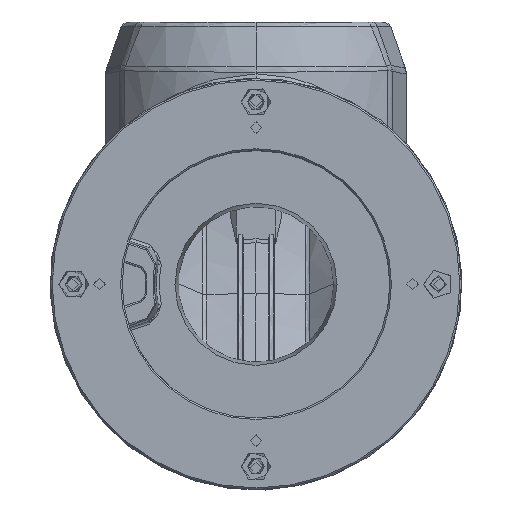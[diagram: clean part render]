
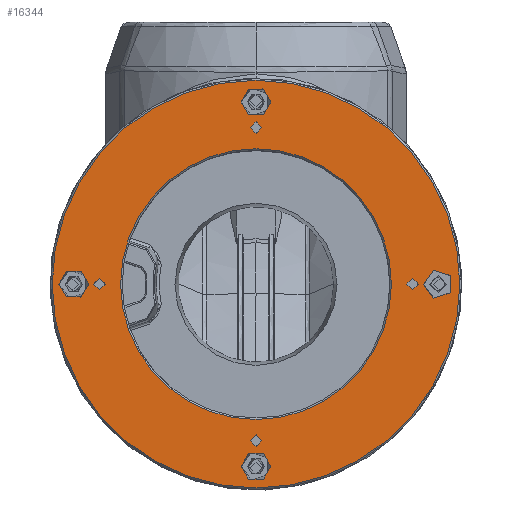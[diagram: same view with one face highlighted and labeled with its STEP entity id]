
A CAD part, top view. The second image highlights one B-rep face of the part: STEP entity #16344.
In plain terms, the highlighted planar face has unit normal (0, 0, 1).
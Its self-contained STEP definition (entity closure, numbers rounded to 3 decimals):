
#14640=CIRCLE('',#36894,4.758);
#14641=CIRCLE('',#36895,1.882);
#14642=CIRCLE('',#36896,43.4);
#14643=CIRCLE('',#36897,65.35);
#14644=CIRCLE('',#36898,1.882);
#14645=CIRCLE('',#36899,4.758);
#14646=CIRCLE('',#36900,4.758);
#14647=CIRCLE('',#36901,1.882);
#14648=CIRCLE('',#36902,4.758);
#14649=CIRCLE('',#36903,1.882);
#16344=ADVANCED_FACE('',(#16951,#16952,#16953,#16954,#16955,#16956,#16957,
#16958,#16959,#16960),#16677,.F.);
#16677=PLANE('',#36904);
#16951=FACE_BOUND('',#18692,.T.);
#16952=FACE_BOUND('',#18693,.T.);
#16953=FACE_BOUND('',#18694,.T.);
#16954=FACE_BOUND('',#18695,.T.);
#16955=FACE_BOUND('',#18696,.T.);
#16956=FACE_BOUND('',#18697,.T.);
#16957=FACE_BOUND('',#18698,.T.);
#16958=FACE_BOUND('',#18699,.T.);
#16959=FACE_BOUND('',#18700,.T.);
#16960=FACE_BOUND('',#18701,.T.);
#18692=EDGE_LOOP('',(#26957));
#18693=EDGE_LOOP('',(#26958));
#18694=EDGE_LOOP('',(#26959));
#18695=EDGE_LOOP('',(#26960));
#18696=EDGE_LOOP('',(#26961));
#18697=EDGE_LOOP('',(#26962));
#18698=EDGE_LOOP('',(#26963));
#18699=EDGE_LOOP('',(#26964));
#18700=EDGE_LOOP('',(#26965));
#18701=EDGE_LOOP('',(#26966));
#26957=ORIENTED_EDGE('',*,*,#33176,.T.);
#26958=ORIENTED_EDGE('',*,*,#33177,.F.);
#26959=ORIENTED_EDGE('',*,*,#33178,.T.);
#26960=ORIENTED_EDGE('',*,*,#33179,.T.);
#26961=ORIENTED_EDGE('',*,*,#33180,.T.);
#26962=ORIENTED_EDGE('',*,*,#33181,.F.);
#26963=ORIENTED_EDGE('',*,*,#33182,.T.);
#26964=ORIENTED_EDGE('',*,*,#33183,.F.);
#26965=ORIENTED_EDGE('',*,*,#33184,.F.);
#26966=ORIENTED_EDGE('',*,*,#33185,.T.);
#29560=VERTEX_POINT('',#88021);
#29561=VERTEX_POINT('',#88023);
#29562=VERTEX_POINT('',#88025);
#29563=VERTEX_POINT('',#88027);
#29564=VERTEX_POINT('',#88029);
#29565=VERTEX_POINT('',#88031);
#29566=VERTEX_POINT('',#88033);
#29567=VERTEX_POINT('',#88035);
#29568=VERTEX_POINT('',#88037);
#29569=VERTEX_POINT('',#88039);
#33176=EDGE_CURVE('',#29560,#29560,#14640,.T.);
#33177=EDGE_CURVE('',#29561,#29561,#14641,.T.);
#33178=EDGE_CURVE('',#29562,#29562,#14642,.T.);
#33179=EDGE_CURVE('',#29563,#29563,#14643,.T.);
#33180=EDGE_CURVE('',#29564,#29564,#14644,.T.);
#33181=EDGE_CURVE('',#29565,#29565,#14645,.T.);
#33182=EDGE_CURVE('',#29566,#29566,#14646,.T.);
#33183=EDGE_CURVE('',#29567,#29567,#14647,.T.);
#33184=EDGE_CURVE('',#29568,#29568,#14648,.T.);
#33185=EDGE_CURVE('',#29569,#29569,#14649,.T.);
#36894=AXIS2_PLACEMENT_3D('',#88020,#41003,#41004);
#36895=AXIS2_PLACEMENT_3D('',#88022,#41005,#41006);
#36896=AXIS2_PLACEMENT_3D('',#88024,#41007,#41008);
#36897=AXIS2_PLACEMENT_3D('',#88026,#41009,#41010);
#36898=AXIS2_PLACEMENT_3D('',#88028,#41011,#41012);
#36899=AXIS2_PLACEMENT_3D('',#88030,#41013,#41014);
#36900=AXIS2_PLACEMENT_3D('',#88032,#41015,#41016);
#36901=AXIS2_PLACEMENT_3D('',#88034,#41017,#41018);
#36902=AXIS2_PLACEMENT_3D('',#88036,#41019,#41020);
#36903=AXIS2_PLACEMENT_3D('',#88038,#41021,#41022);
#36904=AXIS2_PLACEMENT_3D('',#88040,#41023,#41024);
#41003=DIRECTION('',(0.,0.,-1.));
#41004=DIRECTION('',(-1.,0.,0.));
#41005=DIRECTION('',(0.,0.,1.));
#41006=DIRECTION('',(-1.,0.,0.));
#41007=DIRECTION('',(0.,0.,-1.));
#41008=DIRECTION('',(-1.,0.,0.));
#41009=DIRECTION('',(0.,0.,1.));
#41010=DIRECTION('',(-1.,0.,0.));
#41011=DIRECTION('',(0.,0.,-1.));
#41012=DIRECTION('',(-1.,0.,0.));
#41013=DIRECTION('',(0.,0.,1.));
#41014=DIRECTION('',(-1.,0.,0.));
#41015=DIRECTION('',(0.,0.,-1.));
#41016=DIRECTION('',(-1.,0.,0.));
#41017=DIRECTION('',(0.,0.,1.));
#41018=DIRECTION('',(-1.,0.,0.));
#41019=DIRECTION('',(0.,0.,1.));
#41020=DIRECTION('',(-1.,0.,0.));
#41021=DIRECTION('',(0.,0.,-1.));
#41022=DIRECTION('',(-1.,0.,0.));
#41023=DIRECTION('',(0.,0.,-1.));
#41024=DIRECTION('',(-1.,0.,0.));
#88020=CARTESIAN_POINT('',(425.031,581.636,20.548));
#88021=CARTESIAN_POINT('',(429.789,581.636,20.548));
#88022=CARTESIAN_POINT('',(425.031,589.836,20.548));
#88023=CARTESIAN_POINT('',(423.15,589.836,20.548));
#88024=CARTESIAN_POINT('',(425.031,640.036,20.548));
#88025=CARTESIAN_POINT('',(468.431,640.036,20.548));
#88026=CARTESIAN_POINT('',(425.031,640.036,20.548));
#88027=CARTESIAN_POINT('',(490.381,640.036,20.548));
#88028=CARTESIAN_POINT('',(425.031,690.236,20.548));
#88029=CARTESIAN_POINT('',(423.15,690.236,20.548));
#88030=CARTESIAN_POINT('',(425.031,698.436,20.548));
#88031=CARTESIAN_POINT('',(429.789,698.436,20.548));
#88032=CARTESIAN_POINT('',(366.631,640.036,20.548));
#88033=CARTESIAN_POINT('',(371.389,640.036,20.548));
#88034=CARTESIAN_POINT('',(374.831,640.036,20.548));
#88035=CARTESIAN_POINT('',(372.95,640.036,20.548));
#88036=CARTESIAN_POINT('',(483.431,640.036,20.548));
#88037=CARTESIAN_POINT('',(478.674,640.036,20.548));
#88038=CARTESIAN_POINT('',(475.231,640.036,20.548));
#88039=CARTESIAN_POINT('',(473.35,640.036,20.548));
#88040=CARTESIAN_POINT('',(425.031,640.036,20.548));
